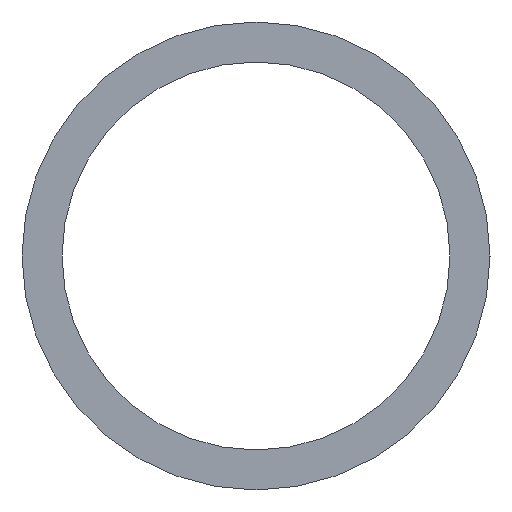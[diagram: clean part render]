
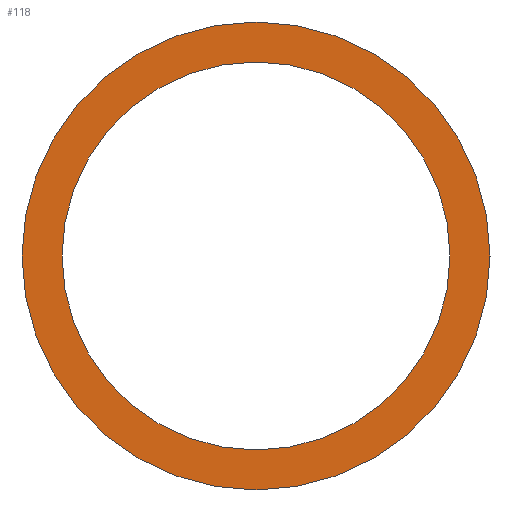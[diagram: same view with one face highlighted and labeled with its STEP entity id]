
A CAD part, left-side view. The second image highlights one B-rep face of the part: STEP entity #118.
In plain terms, the highlighted planar face has unit normal (-1, 0, 0).
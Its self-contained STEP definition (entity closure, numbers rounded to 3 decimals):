
#4 = CIRCLE ( 'NONE', #27, 11.15 ) ;
#12 = DIRECTION ( 'NONE',  ( 1., 0., 0. ) ) ;
#14 = EDGE_LOOP ( 'NONE', ( #107, #57 ) ) ;
#16 = EDGE_CURVE ( 'NONE', #88, #56, #103, .T. ) ;
#19 = CARTESIAN_POINT ( 'NONE',  ( 7092.5, 1810., 2995.85 ) ) ;
#27 = AXIS2_PLACEMENT_3D ( 'NONE', #19, #76, #149 ) ;
#29 = DIRECTION ( 'NONE',  ( 1., 0., 0. ) ) ;
#34 = CARTESIAN_POINT ( 'NONE',  ( 7092.5, 1810., 2984.7 ) ) ;
#41 = VERTEX_POINT ( 'NONE', #70 ) ;
#42 = DIRECTION ( 'NONE',  ( 0., 0., -1. ) ) ;
#47 = EDGE_CURVE ( 'NONE', #144, #41, #80, .T. ) ;
#56 = VERTEX_POINT ( 'NONE', #167 ) ;
#57 = ORIENTED_EDGE ( 'NONE', *, *, #16, .F. ) ;
#67 = CARTESIAN_POINT ( 'NONE',  ( 7092.5, 1810., 2995.85 ) ) ;
#70 = CARTESIAN_POINT ( 'NONE',  ( 7092.5, 1810., 3007. ) ) ;
#72 = ORIENTED_EDGE ( 'NONE', *, *, #106, .T. ) ;
#76 = DIRECTION ( 'NONE',  ( 1., 0., 0. ) ) ;
#80 = CIRCLE ( 'NONE', #201, 11.15 ) ;
#88 = VERTEX_POINT ( 'NONE', #196 ) ;
#90 = ORIENTED_EDGE ( 'NONE', *, *, #47, .T. ) ;
#101 = DIRECTION ( 'NONE',  ( 0., 0., -1. ) ) ;
#102 = DIRECTION ( 'NONE',  ( 1., 0., 0. ) ) ;
#103 = CIRCLE ( 'NONE', #111, 13.45 ) ;
#106 = EDGE_CURVE ( 'NONE', #41, #144, #4, .T. ) ;
#107 = ORIENTED_EDGE ( 'NONE', *, *, #198, .F. ) ;
#109 = FACE_OUTER_BOUND ( 'NONE', #14, .T. ) ;
#111 = AXIS2_PLACEMENT_3D ( 'NONE', #142, #195, #208 ) ;
#118 = ADVANCED_FACE ( 'NONE', ( #109, #182 ), #146, .F. ) ;
#122 = EDGE_LOOP ( 'NONE', ( #72, #90 ) ) ;
#133 = DIRECTION ( 'NONE',  ( 0., 0., -1. ) ) ;
#142 = CARTESIAN_POINT ( 'NONE',  ( 7092.5, 1810., 2995.85 ) ) ;
#144 = VERTEX_POINT ( 'NONE', #34 ) ;
#146 = PLANE ( 'NONE',  #194 ) ;
#149 = DIRECTION ( 'NONE',  ( 0., 0., -1. ) ) ;
#152 = CARTESIAN_POINT ( 'NONE',  ( 7092.5, 1810., 2995.85 ) ) ;
#164 = AXIS2_PLACEMENT_3D ( 'NONE', #67, #102, #101 ) ;
#167 = CARTESIAN_POINT ( 'NONE',  ( 7092.5, 1810., 3009.3 ) ) ;
#182 = FACE_BOUND ( 'NONE', #122, .T. ) ;
#193 = CARTESIAN_POINT ( 'NONE',  ( 7092.5, 1810., 2995.85 ) ) ;
#194 = AXIS2_PLACEMENT_3D ( 'NONE', #152, #29, #133 ) ;
#195 = DIRECTION ( 'NONE',  ( 1., 0., 0. ) ) ;
#196 = CARTESIAN_POINT ( 'NONE',  ( 7092.5, 1810., 2982.4 ) ) ;
#198 = EDGE_CURVE ( 'NONE', #56, #88, #203, .T. ) ;
#201 = AXIS2_PLACEMENT_3D ( 'NONE', #193, #12, #42 ) ;
#203 = CIRCLE ( 'NONE', #164, 13.45 ) ;
#208 = DIRECTION ( 'NONE',  ( 0., 0., -1. ) ) ;
